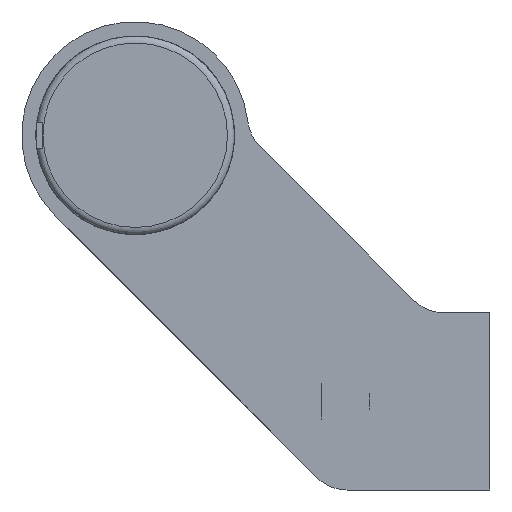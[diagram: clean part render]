
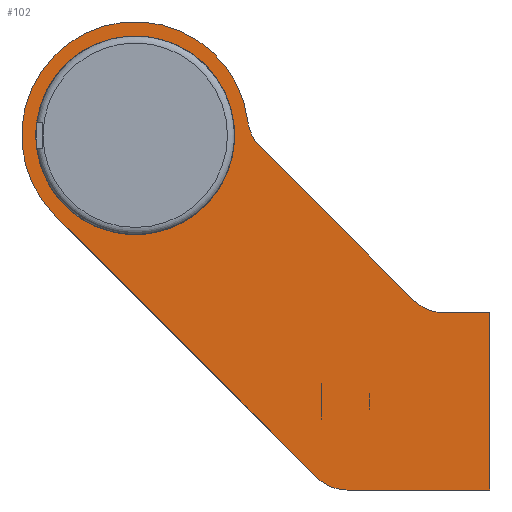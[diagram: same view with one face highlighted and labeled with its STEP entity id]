
A CAD part, left-side view. The second image highlights one B-rep face of the part: STEP entity #102.
In plain terms, the highlighted planar face has unit normal (-1, 0, 0).
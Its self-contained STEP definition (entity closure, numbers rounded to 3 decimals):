
#102 = ADVANCED_FACE( '', ( #191, #192 ), #193, .F. );
#191 = FACE_BOUND( '', #320, .T. );
#192 = FACE_OUTER_BOUND( '', #321, .T. );
#193 = PLANE( '', #322 );
#320 = EDGE_LOOP( '', ( #581 ) );
#321 = EDGE_LOOP( '', ( #582, #583, #584, #585, #586, #587, #588, #589, #590 ) );
#322 = AXIS2_PLACEMENT_3D( '', #591, #592, #593 );
#581 = ORIENTED_EDGE( '', *, *, #776, .T. );
#582 = ORIENTED_EDGE( '', *, *, #794, .F. );
#583 = ORIENTED_EDGE( '', *, *, #820, .F. );
#584 = ORIENTED_EDGE( '', *, *, #817, .F. );
#585 = ORIENTED_EDGE( '', *, *, #814, .F. );
#586 = ORIENTED_EDGE( '', *, *, #810, .F. );
#587 = ORIENTED_EDGE( '', *, *, #807, .T. );
#588 = ORIENTED_EDGE( '', *, *, #804, .F. );
#589 = ORIENTED_EDGE( '', *, *, #801, .T. );
#590 = ORIENTED_EDGE( '', *, *, #798, .F. );
#591 = CARTESIAN_POINT( '', ( -207., 50., 37.5 ) );
#592 = DIRECTION( '', ( 1., 0., 0. ) );
#593 = DIRECTION( '', ( 0., 0., -1. ) );
#776 = EDGE_CURVE( '', #900, #900, #901, .T. );
#794 = EDGE_CURVE( '', #931, #932, #933, .T. );
#798 = EDGE_CURVE( '', #932, #939, #940, .T. );
#801 = EDGE_CURVE( '', #944, #939, #945, .T. );
#804 = EDGE_CURVE( '', #944, #949, #950, .T. );
#807 = EDGE_CURVE( '', #954, #949, #955, .T. );
#810 = EDGE_CURVE( '', #954, #959, #960, .T. );
#814 = EDGE_CURVE( '', #959, #966, #967, .T. );
#817 = EDGE_CURVE( '', #966, #971, #972, .T. );
#820 = EDGE_CURVE( '', #971, #931, #976, .T. );
#900 = VERTEX_POINT( '', #1129 );
#901 = CIRCLE( '', #1130, 14. );
#931 = VERTEX_POINT( '', #1172 );
#932 = VERTEX_POINT( '', #1173 );
#933 = LINE( '', #1174, #1175 );
#939 = VERTEX_POINT( '', #1184 );
#940 = CIRCLE( '', #1185, 16. );
#944 = VERTEX_POINT( '', #1190 );
#945 = CIRCLE( '', #1191, 6. );
#949 = VERTEX_POINT( '', #1196 );
#950 = LINE( '', #1197, #1198 );
#954 = VERTEX_POINT( '', #1204 );
#955 = CIRCLE( '', #1205, 6. );
#959 = VERTEX_POINT( '', #1210 );
#960 = LINE( '', #1211, #1212 );
#966 = VERTEX_POINT( '', #1220 );
#967 = LINE( '', #1221, #1222 );
#971 = VERTEX_POINT( '', #1228 );
#972 = LINE( '', #1229, #1230 );
#976 = CIRCLE( '', #1236, 6. );
#1129 = CARTESIAN_POINT( '', ( -207., 50., 23.5 ) );
#1130 = AXIS2_PLACEMENT_3D( '', #1319, #1320, #1321 );
#1172 = CARTESIAN_POINT( '', ( -207., 24.385, -10.743 ) );
#1173 = CARTESIAN_POINT( '', ( -207., 61.314, 26.186 ) );
#1174 = CARTESIAN_POINT( '', ( -207., 24.385, -10.743 ) );
#1175 = VECTOR( '', #1360, 1000. );
#1184 = CARTESIAN_POINT( '', ( -207., 34.116, 39.424 ) );
#1185 = AXIS2_PLACEMENT_3D( '', #1364, #1365, #1366 );
#1190 = CARTESIAN_POINT( '', ( -207., 32.402, 35.902 ) );
#1191 = AXIS2_PLACEMENT_3D( '', #1371, #1372, #1373 );
#1196 = CARTESIAN_POINT( '', ( -207., 10.757, 14.257 ) );
#1197 = CARTESIAN_POINT( '', ( -207., 32.402, 35.902 ) );
#1198 = VECTOR( '', #1378, 1000. );
#1204 = CARTESIAN_POINT( '', ( -207., 6.515, 12.5 ) );
#1205 = AXIS2_PLACEMENT_3D( '', #1381, #1382, #1383 );
#1210 = CARTESIAN_POINT( '', ( -207., 0., 12.5 ) );
#1211 = CARTESIAN_POINT( '', ( -207., 6.515, 12.5 ) );
#1212 = VECTOR( '', #1388, 1000. );
#1220 = CARTESIAN_POINT( '', ( -207., 0., -12.5 ) );
#1221 = CARTESIAN_POINT( '', ( -207., 0., 12.5 ) );
#1222 = VECTOR( '', #1394, 1000. );
#1228 = CARTESIAN_POINT( '', ( -207., 20.142, -12.5 ) );
#1229 = CARTESIAN_POINT( '', ( -207., 0., -12.5 ) );
#1230 = VECTOR( '', #1397, 1000. );
#1236 = AXIS2_PLACEMENT_3D( '', #1400, #1401, #1402 );
#1319 = CARTESIAN_POINT( '', ( -207., 50., 37.5 ) );
#1320 = DIRECTION( '', ( 1., 0., 0. ) );
#1321 = DIRECTION( '', ( 0., 0., -1. ) );
#1360 = DIRECTION( '', ( 0., 0.707, 0.707 ) );
#1364 = CARTESIAN_POINT( '', ( -207., 50., 37.5 ) );
#1365 = DIRECTION( '', ( 1., 0., 0. ) );
#1366 = DIRECTION( '', ( 0., 0., -1. ) );
#1371 = CARTESIAN_POINT( '', ( -207., 28.16, 40.145 ) );
#1372 = DIRECTION( '', ( 1., 0., 0. ) );
#1373 = DIRECTION( '', ( 0., 0., -1. ) );
#1378 = DIRECTION( '', ( 0., -0.707, -0.707 ) );
#1381 = CARTESIAN_POINT( '', ( -207., 6.515, 18.5 ) );
#1382 = DIRECTION( '', ( 1., 0., 0. ) );
#1383 = DIRECTION( '', ( 0., 0., -1. ) );
#1388 = DIRECTION( '', ( 0., -1., 0. ) );
#1394 = DIRECTION( '', ( 0., 0., -1. ) );
#1397 = DIRECTION( '', ( 0., 1., 0. ) );
#1400 = CARTESIAN_POINT( '', ( -207., 20.142, -6.5 ) );
#1401 = DIRECTION( '', ( 1., 0., 0. ) );
#1402 = DIRECTION( '', ( 0., 0., -1. ) );
